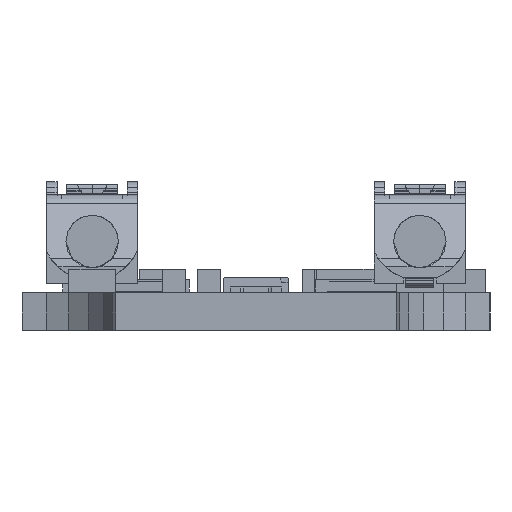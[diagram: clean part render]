
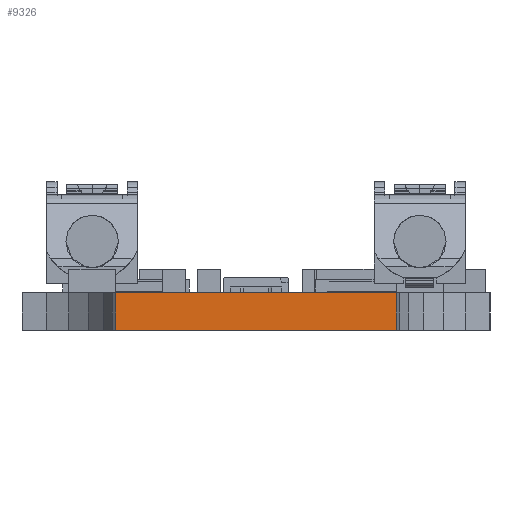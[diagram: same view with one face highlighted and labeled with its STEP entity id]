
A CAD part, left-side view. The second image highlights one B-rep face of the part: STEP entity #9326.
In plain terms, the highlighted planar face has unit normal (-1, 0, 0).
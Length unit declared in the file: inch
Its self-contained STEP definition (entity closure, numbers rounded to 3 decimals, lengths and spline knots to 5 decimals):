
#15=DIRECTION('',(0.,-1.,0.));
#16=VECTOR('',#15,12.);
#17=CARTESIAN_POINT('',(-559.2,6.,0.));
#18=LINE('',#17,#16);
#2424=DIRECTION('',(0.,0.,1.));
#2425=VECTOR('',#2424,1.6);
#2426=CARTESIAN_POINT('',(-559.2,6.,0.));
#2427=LINE('',#2426,#2425);
#4825=DIRECTION('',(0.,0.,1.));
#4826=VECTOR('',#4825,1.6);
#4827=CARTESIAN_POINT('',(-559.2,-6.,0.));
#4828=LINE('',#4827,#4826);
#4832=DIRECTION('',(0.,-1.,0.));
#4833=VECTOR('',#4832,12.);
#4834=CARTESIAN_POINT('',(-559.2,6.,1.6));
#4835=LINE('',#4834,#4833);
#7240=CARTESIAN_POINT('',(-559.2,6.,0.));
#7241=CARTESIAN_POINT('',(-559.2,-6.,0.));
#7242=VERTEX_POINT('',#7240);
#7243=VERTEX_POINT('',#7241);
#7928=CARTESIAN_POINT('',(-559.2,6.,1.6));
#7929=CARTESIAN_POINT('',(-559.2,-6.,1.6));
#7930=VERTEX_POINT('',#7928);
#7931=VERTEX_POINT('',#7929);
#9312=CARTESIAN_POINT('',(-559.2,6.,0.));
#9313=DIRECTION('',(-1.,0.,0.));
#9314=DIRECTION('',(0.,-1.,0.));
#9315=AXIS2_PLACEMENT_3D('',#9312,#9313,#9314);
#9316=PLANE('',#9315);
#9317=ORIENTED_EDGE('',*,*,#8621,.F.);
#9319=ORIENTED_EDGE('',*,*,#9318,.T.);
#9321=ORIENTED_EDGE('',*,*,#9320,.T.);
#9323=ORIENTED_EDGE('',*,*,#9322,.F.);
#9324=EDGE_LOOP('',(#9317,#9319,#9321,#9323));
#9325=FACE_OUTER_BOUND('',#9324,.F.);
#8621=EDGE_CURVE('',#7242,#7243,#18,.T.);
#9318=EDGE_CURVE('',#7242,#7930,#2427,.T.);
#9320=EDGE_CURVE('',#7930,#7931,#4835,.T.);
#9322=EDGE_CURVE('',#7243,#7931,#4828,.T.);
#9326=ADVANCED_FACE('',(#9325),#9316,.T.);
